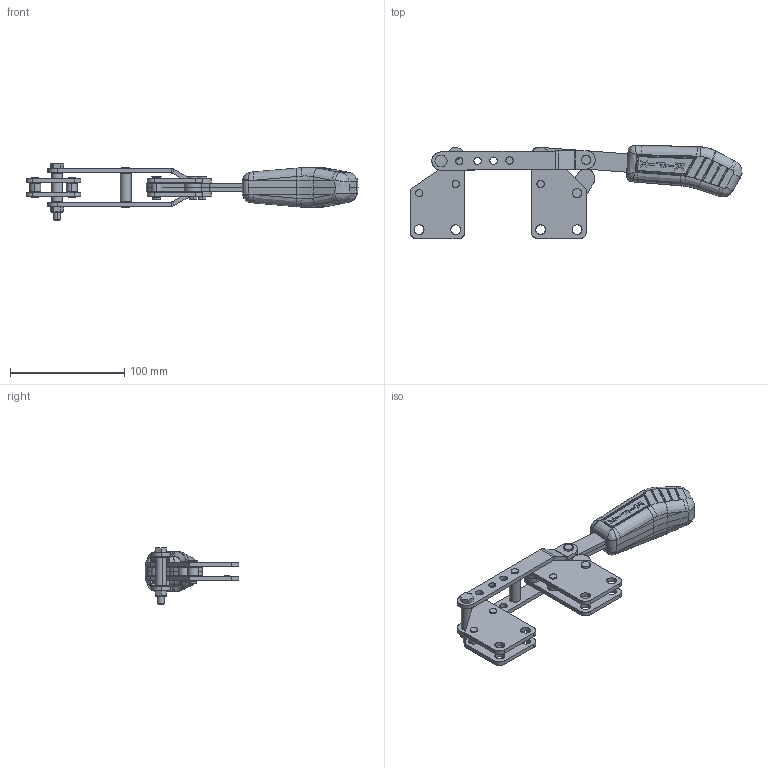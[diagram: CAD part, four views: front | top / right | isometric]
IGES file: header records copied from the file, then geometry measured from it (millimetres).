
Start section: SolidWorks IGES file using analytic representation for surfaces
Global section: file name: C:\Projetos\Grampos\KF-314\KF-314 R\KF-314 R.IGS; native system: SolidWorks 2018; preprocessor: SolidWorks 2018; author: Ricardo; date: 180424.135318; units: millimetre
Bounding box: 290.38 x 81.91 x 49 mm (x, y, z)
Surface area: 79147.8 mm2 (no closed solid volume)
Topology: 0 solids, 0 shells, 699 faces, 9005 edges, 8983 vertices
Faces by surface type: bspline 401, revolution 298
